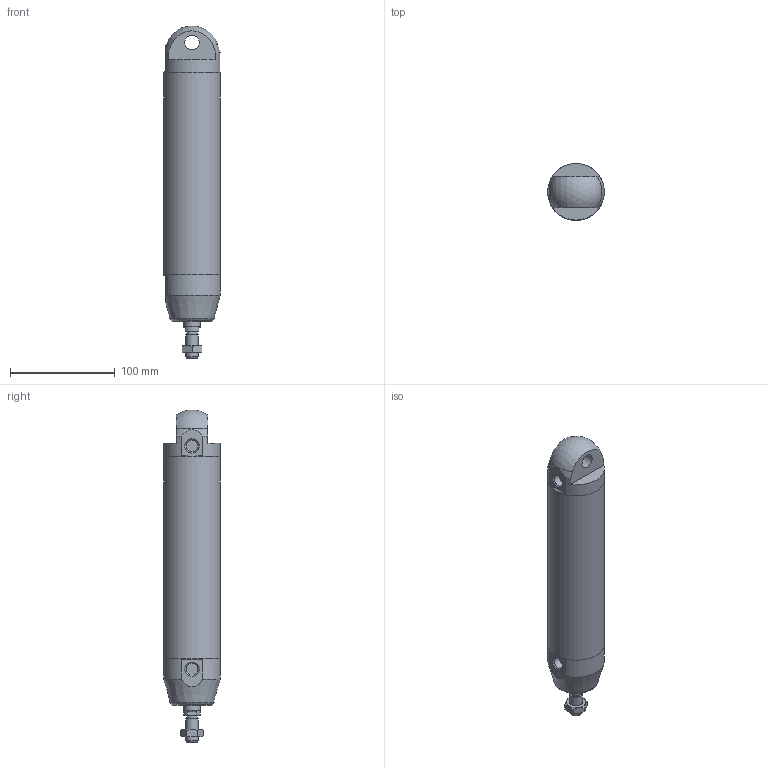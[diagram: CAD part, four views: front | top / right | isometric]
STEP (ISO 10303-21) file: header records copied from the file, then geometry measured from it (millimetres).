
FILE_DESCRIPTION(/* description */ (''),/* implementation_level */ '2;1');
FILE_NAME(/* name */ 'I:\Area Tecnica\Documenti\A-Manieri\_Inventor\12X\12X#A_###_####_#_#\12XAA_050_0150_#_#.stp',/* time_stamp */ '2015-04-22T12:07:11+02:00',/* author */ ('maniean1'),/* organization */ ('Pneumax S.p.A.'),/* preprocessor_version */ 'ST-DEVELOPER v15.2',/* originating_system */ 'Autodesk Inventor 2014',/* authorisation */ '');
FILE_SCHEMA (('AUTOMOTIVE_DESIGN { 1 0 10303 214 3 1 1 }'));
Length unit declared in the file: millimetre
Products named in the file (6): C1250_619-0150; 12X50_613; 12X50_605; S12X50_0150; 12X_50_11; 12XAA_050_0150_#_#
Bounding box: 54 x 54 x 316.83 mm (x, y, z)
Volume: 333315.6 mm3; surface area: 110230.3 mm2
Topology: 5 solids, 5 shells, 59 faces, 126 edges, 81 vertices
Faces by surface type: plane 31, cylinder 14, cone 12, torus 1, sphere 1
Full cylindrical faces by diameter (mm): 10.2 x1, 11.4 x2, 12 x2, 14 x2, 15.6 x1, 16 x1, 50 x2, 54 x3
Entity records: 1560 total; most frequent: CARTESIAN_POINT 288, DIRECTION 266, ORIENTED_EDGE 196, AXIS2_PLACEMENT_3D 120, EDGE_CURVE 98, EDGE_LOOP 94, VERTEX_POINT 76, ADVANCED_FACE 59
